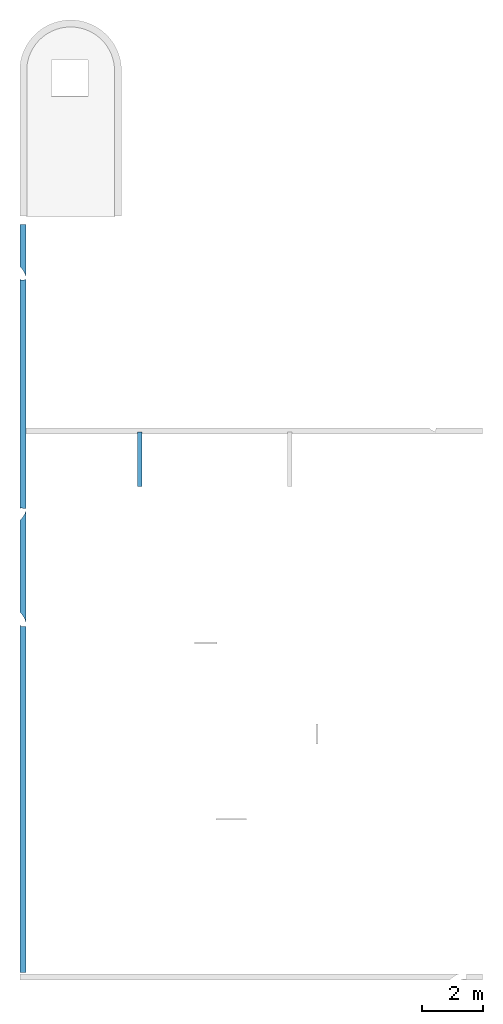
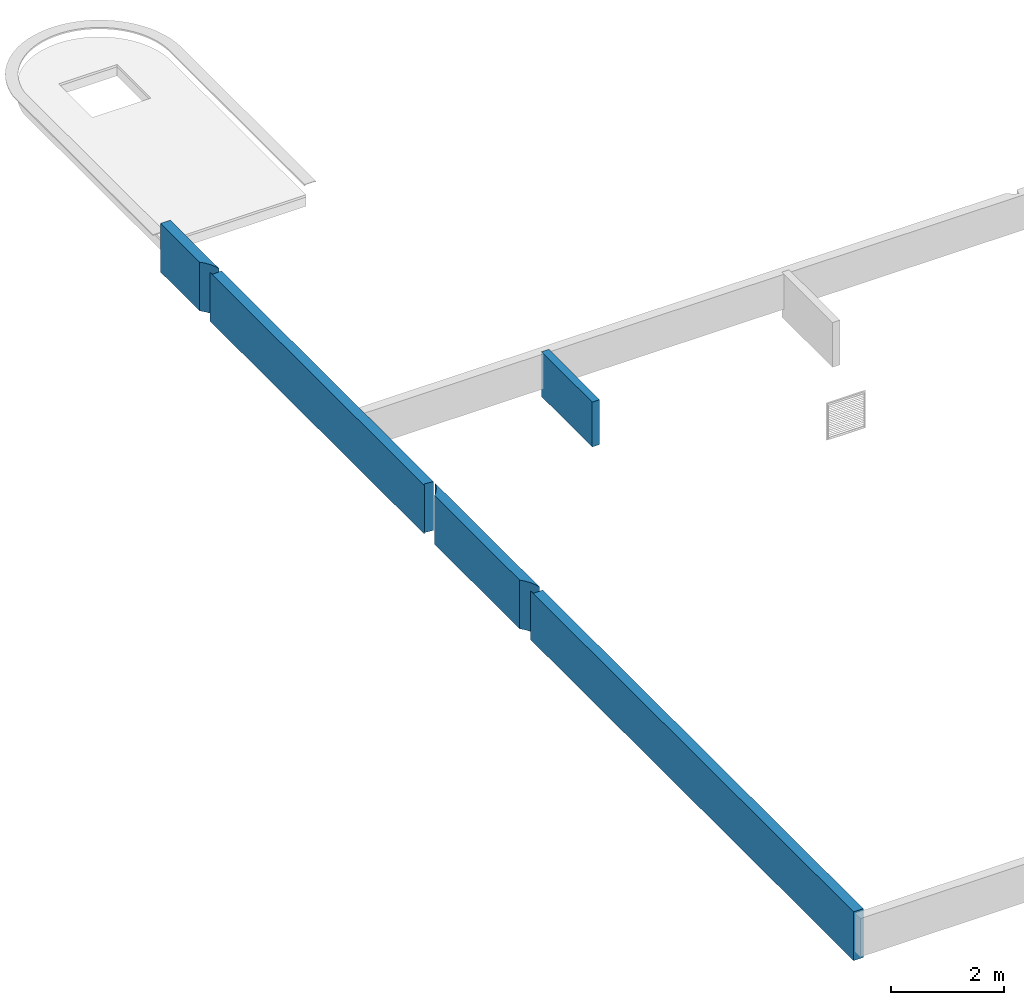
# One storey, part 1 of 2: 2 walls.
"""IFC2X3 building model written with IfcOpenShell, lengths in metres."""

from ifc_helpers import new_model, entity, si_unit, converted_unit, derived_unit, direction, frame, frame_2d, origin, place, context, subcontext, project, spatial, polyline, circle_curve, parameter, trimmed, segment, composite_curve, rectangle, outline, extrude, material, layer, layer_set, layer_usage, type_object, element, save


model = new_model("IFC2X3")

# Units and contexts
model_context = context("Model", 3, precision=1e-05, world=origin(), true_north=direction((6.12303176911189e-17, 1.0)))
body_context = subcontext(model_context, "Body", "Model", "MODEL_VIEW")
ifc_project = project(units=[si_unit("LENGTHUNIT", "METRE"), si_unit("AREAUNIT", "SQUARE_METRE"), si_unit("VOLUMEUNIT", "CUBIC_METRE"), converted_unit("PLANEANGLEUNIT", "DEGREE", entity("IfcRatioMeasure", 0.0174532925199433), si_unit("PLANEANGLEUNIT", "RADIAN"), dimensions=[0, 0, 0, 0, 0, 0, 0]), si_unit("MASSUNIT", "GRAM", prefix="KILO"), derived_unit("MASSDENSITYUNIT", [(si_unit("MASSUNIT", "GRAM", prefix="KILO"), 1), (si_unit("LENGTHUNIT", "METRE"), -3)]), derived_unit("MOMENTOFINERTIAUNIT", [(si_unit("LENGTHUNIT", "METRE"), 4)]), si_unit("TIMEUNIT", "SECOND"), si_unit("FREQUENCYUNIT", "HERTZ"), si_unit("THERMODYNAMICTEMPERATUREUNIT", "DEGREE_CELSIUS"), derived_unit("THERMALTRANSMITTANCEUNIT", [(si_unit("MASSUNIT", "GRAM", prefix="KILO"), 1), (si_unit("THERMODYNAMICTEMPERATUREUNIT", "KELVIN"), -1), (si_unit("TIMEUNIT", "SECOND"), -3)]), derived_unit("VOLUMETRICFLOWRATEUNIT", [(si_unit("LENGTHUNIT", "METRE"), 3), (si_unit("TIMEUNIT", "SECOND"), -1)]), si_unit("ELECTRICCURRENTUNIT", "AMPERE"), si_unit("ELECTRICVOLTAGEUNIT", "VOLT"), si_unit("POWERUNIT", "WATT"), si_unit("FORCEUNIT", "NEWTON", prefix="KILO"), si_unit("ILLUMINANCEUNIT", "LUX"), si_unit("LUMINOUSFLUXUNIT", "LUMEN"), si_unit("LUMINOUSINTENSITYUNIT", "CANDELA"), derived_unit("USERDEFINED", [(si_unit("MASSUNIT", "GRAM", prefix="KILO"), -1), (si_unit("LENGTHUNIT", "METRE"), -2), (si_unit("TIMEUNIT", "SECOND"), 3), (si_unit("LUMINOUSFLUXUNIT", "LUMEN"), 1)]), derived_unit("LINEARVELOCITYUNIT", [(si_unit("LENGTHUNIT", "METRE"), 1), (si_unit("TIMEUNIT", "SECOND"), -1)]), si_unit("PRESSUREUNIT", "PASCAL"), derived_unit("USERDEFINED", [(si_unit("LENGTHUNIT", "METRE"), -2), (si_unit("MASSUNIT", "GRAM", prefix="KILO"), 1), (si_unit("TIMEUNIT", "SECOND"), -2)]), derived_unit("LINEARFORCEUNIT", [(si_unit("MASSUNIT", "GRAM", prefix="KILO"), 1), (si_unit("LENGTHUNIT", "METRE"), 1), (si_unit("TIMEUNIT", "SECOND"), -2), (si_unit("LENGTHUNIT", "METRE"), -1)]), derived_unit("PLANARFORCEUNIT", [(si_unit("MASSUNIT", "GRAM", prefix="KILO"), 1), (si_unit("LENGTHUNIT", "METRE"), 1), (si_unit("TIMEUNIT", "SECOND"), -2), (si_unit("LENGTHUNIT", "METRE"), -2)])], contexts=[model_context])

# Site, building, storey
site_placement = place(None, origin())
site = spatial("IfcSite", under=ifc_project, at=site_placement, Name="Default", CompositionType="ELEMENT")
building_placement = place(site_placement, origin())
building = spatial("IfcBuilding", under=site, at=building_placement, CompositionType="ELEMENT")
storey_placement = place(building_placement, frame((0.0, 0.0, 9.74730827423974)))
storey = spatial("IfcBuildingStorey", under=building, at=storey_placement, Name="Niveau 3 - 02", CompositionType="ELEMENT", Elevation=9.74730827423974)

# Walls
ifc_material_1 = material(Name="Maçonnerie - Voile BA")
ifc_layer_1 = layer(ifc_material_1, 0.2)
ifc_layer_set_1 = layer_set([ifc_layer_1], Name="Mur de base:Ext. Voile BA 200")
wall_type_1 = type_object("IfcWallType", Name="Mur de base:Ext. Voile BA 200", PredefinedType="STANDARD", material=ifc_layer_set_1)
wall_1_placement = place(storey_placement, frame((-18.8589891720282, -14.0291151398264, -0.379999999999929), z_axis=(0.0, 0.0, 1.0), x_axis=(0.0, 1.0, 0.0)))
element("IfcWall", 1, at=wall_1_placement, inside=storey, type_object=wall_type_1, Name="Mur de base:Ext. Voile BA 200", ObjectType="Mur de base:Ext. Voile BA 200", context=body_context, shape_type="SweptSolid", body=[
    extrude(outline(composite_curve([segment(polyline([(-4.5485209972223, -0.0950000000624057), (-2.14048363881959, -0.09500000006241)]), True, "CONTINUOUS"), segment(polyline([(-2.14048363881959, -0.09500000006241), (-1.79048363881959, -0.09500000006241)]), True, "CONTINUOUS"), segment(polyline([(-1.79048363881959, -0.09500000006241), (0.614616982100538, -0.0950000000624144)]), True, "CONTINUOUS"), segment(polyline([(0.614616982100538, -0.0950000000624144), (1.00148165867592, -0.0950000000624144)]), True, "CONTINUOUS"), segment(polyline([(1.00148165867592, -0.0950000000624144), (4.06003168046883, -0.0950000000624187)]), True, "CONTINUOUS"), segment(polyline([(4.06003168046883, -0.0950000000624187), (4.52062701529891, -0.0950000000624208)]), True, "CONTINUOUS"), segment(polyline([(4.52062701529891, -0.0950000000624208), (6.91804799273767, -0.0950000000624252)]), True, "CONTINUOUS"), segment(polyline([(6.91804799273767, -0.0950000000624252), (6.91804799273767, 0.104999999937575)]), True, "CONTINUOUS"), segment(polyline([(6.91804799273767, 0.104999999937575), (0.637920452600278, 0.104999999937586)]), True, "CONTINUOUS"), segment(polyline([(0.637920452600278, 0.104999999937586), (0.53257338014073, 0.104999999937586)]), True, "CONTINUOUS"), segment(polyline([(0.53257338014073, 0.104999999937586), (-0.140682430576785, 0.104999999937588)]), True, "CONTINUOUS"), segment(polyline([(-0.140682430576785, 0.104999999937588), (-1.14068243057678, 0.104999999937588)]), True, "CONTINUOUS"), segment(polyline([(-1.14068243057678, 0.104999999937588), (-2.75824862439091, 0.104999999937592)]), True, "CONTINUOUS"), segment(polyline([(-2.75824862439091, 0.104999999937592), (-3.75824862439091, 0.104999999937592)]), True, "CONTINUOUS"), segment(polyline([(-3.75824862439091, 0.104999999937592), (-4.46647739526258, 0.104999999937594)]), True, "CONTINUOUS"), segment(polyline([(-4.46647739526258, 0.104999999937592), (-4.45951937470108, -0.0799999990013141)]), True, "CONTINUOUS"), segment(trimmed(circle_curve(frame_2d((-4.41625805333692, -0.608231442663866), x_axis=(0.0, 1.0)), 0.53), [parameter(4.68198466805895)], [parameter(14.4510463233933)], True, "PARAMETER"), True, "CONTINUOUS")], self_intersect=False)), frame((6.91804799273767, 0.00499999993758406, 0.0), z_axis=(0.0, 0.0, 1.0), x_axis=(-1.0, 0.0, 0.0)), (0.0, 0.0, 1.0), 1.05600000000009),
    extrude(outline(composite_curve([segment(polyline([(-0.780153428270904, 0.099999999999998), (-0.7801534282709, -0.100000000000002)]), True, "CONTINUOUS"), segment(polyline([(-0.7801534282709, -0.100000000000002), (0.95369461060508, -0.1)]), True, "CONTINUOUS"), segment(trimmed(circle_curve(frame_2d((1.13063591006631, 0.608231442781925), x_axis=(0.0, -1.0)), 0.73), [parameter(314.123514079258)], [parameter(345.972631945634)], True, "PARAMETER"), False, "CONTINUOUS"), segment(polyline([(0.606612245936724, 0.099999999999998), (-0.780153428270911, 0.099999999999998)]), True, "CONTINUOUS")], self_intersect=False)), frame((23.8198465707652, 0.0, 0.0), z_axis=(0.0, 0.0, -1.0), x_axis=(-1.0, 0.0, 0.0)), (0.0, 0.0, -1.0), 1.05600000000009),
    extrude(outline(composite_curve([segment(polyline([(0.37761897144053, -3.73050886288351), (0.563870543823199, -3.73050886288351)]), True, "CONTINUOUS"), segment(polyline([(0.563870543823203, -3.73050886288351), (-0.307645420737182, 3.74920101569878)]), True, "CONTINUOUS"), segment(polyline([(-0.30764542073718, 3.74920101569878), (-0.489823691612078, 3.71424226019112)]), True, "CONTINUOUS"), segment(trimmed(circle_curve(frame_2d((-0.99976737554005, 3.56982121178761), x_axis=(0.99328019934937, 0.115734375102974)), 0.53), [parameter(9.16665725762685)], [parameter(16.4782964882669)], True, "PARAMETER"), True, "CONTINUOUS"), segment(polyline([(-0.512350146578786, 3.77796646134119), (0.368329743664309, -3.78039201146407)]), True, "CONTINUOUS"), segment(trimmed(circle_curve(frame_2d((-0.147471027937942, -3.65853322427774), x_axis=(0.993280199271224, 0.115734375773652)), 0.53), [parameter(340.061521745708)], [parameter(345.548954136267)], True, "PARAMETER"), True, "CONTINUOUS")], self_intersect=False)), frame((19.027670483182, 0.0283333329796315, 0.0), z_axis=(0.0, 0.0, 1.0), x_axis=(-0.115734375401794, -0.993280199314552, 0.0)), (0.0, 0.0, 1.0), 1.05600000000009),
    extrude(outline(composite_curve([segment(trimmed(circle_curve(frame_2d((-2.05620551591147, 0.598231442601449), x_axis=(0.0, -1.0)), 0.73), [parameter(16.9653434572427)], [parameter(46.9599960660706)], True, "PARAMETER"), False, "CONTINUOUS"), segment(polyline([(-1.84319647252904, -0.100000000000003), (1.86471136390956, -0.100000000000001)]), True, "CONTINUOUS"), segment(trimmed(circle_curve(frame_2d((2.02027777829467, 0.613231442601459), x_axis=(0.0, -1.0)), 0.73), [parameter(314.672766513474)], [parameter(347.69564338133)], True, "PARAMETER"), False, "CONTINUOUS"), segment(polyline([(1.50115015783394, 0.0999999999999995), (-1.52266504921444, 0.0999999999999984)]), True, "CONTINUOUS")], self_intersect=False)), frame((13.3545838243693, 0.0, 0.0), z_axis=(0.0, 0.0, -1.0), x_axis=(-1.0, 0.0, 0.0)), (0.0, 0.0, -1.0), 1.05600000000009),
])
ifc_material_2 = material(Name="Mur par défaut")
ifc_layer_2 = layer(ifc_material_2, 0.15)
ifc_layer_set_2 = layer_set([ifc_layer_2], Name="Mur de base:@_Générique - Int. 150 mm")
ifc_layer_usage = layer_usage(ifc_layer_set_2, "AXIS2", "NEGATIVE", 0.075)
wall_type_2 = type_object("IfcWallType", Name="Mur de base:@_Générique - Int. 150 mm", PredefinedType="STANDARD", material=ifc_layer_set_2)
wall_2_placement = place(storey_placement, frame((-15.0155461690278, 1.95088709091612, -0.294999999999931), z_axis=(0.0, 0.0, 1.0), x_axis=(0.0, 1.0, 0.0)))
element("IfcWallStandardCase", 2, at=wall_2_placement, inside=storey, type_object=wall_type_2, material=ifc_layer_usage, Name="Mur de base:@_Générique - Int. 150 mm", ObjectType="Mur de base:@_Générique - Int. 150 mm", context=body_context, shape_type="SweptSolid", body=[
    extrude(rectangle(XDim=1.80000021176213, YDim=0.150000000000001, at=frame_2d((0.900000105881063, -7.28583859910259e-16), x_axis=(-1.0, 0.0))), origin(), (0.0, 0.0, 1.0), 0.971000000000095),
])

save(model, "model.ifc")
